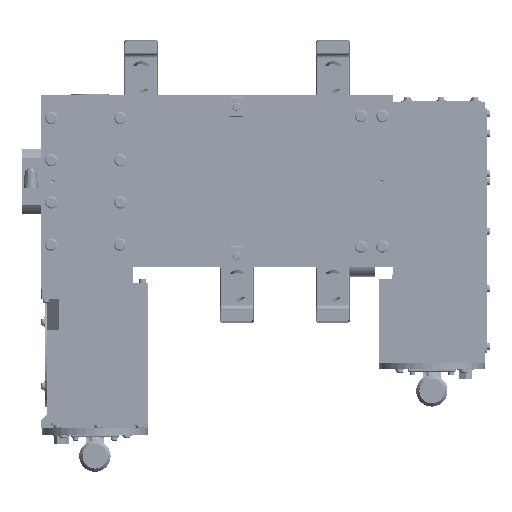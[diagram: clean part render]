
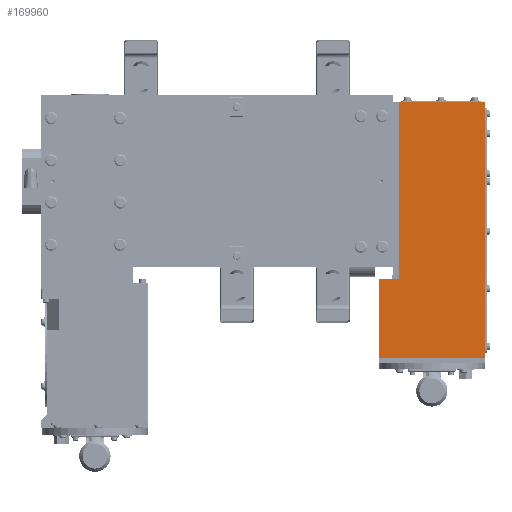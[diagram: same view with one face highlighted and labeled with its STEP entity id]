
A CAD part, front view. The second image highlights one B-rep face of the part: STEP entity #169960.
In plain terms, the highlighted planar face has unit normal (0, -1, 0).
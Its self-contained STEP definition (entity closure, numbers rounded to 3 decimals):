
#867 = CARTESIAN_POINT ( 'NONE',  ( -138., -197., -230. ) ) ;
#6870 = DIRECTION ( 'NONE',  ( -1., 0., 0. ) ) ;
#9101 = EDGE_CURVE ( 'NONE', #91188, #48433, #115496, .T. ) ;
#11586 = CARTESIAN_POINT ( 'NONE',  ( -121., -197., -127. ) ) ;
#23240 = DIRECTION ( 'NONE',  ( -1., 0., 0. ) ) ;
#23965 = LINE ( 'NONE', #58617, #148514 ) ;
#25224 = CARTESIAN_POINT ( 'NONE',  ( 0., -197., 103. ) ) ;
#28241 = EDGE_CURVE ( 'NONE', #41793, #71304, #137997, .T. ) ;
#33371 = EDGE_CURVE ( 'NONE', #83765, #71304, #166252, .T. ) ;
#33974 = EDGE_CURVE ( 'NONE', #44302, #41793, #156992, .T. ) ;
#34081 = DIRECTION ( 'NONE',  ( 0., 0., 1. ) ) ;
#35607 = CARTESIAN_POINT ( 'NONE',  ( 0., -197., -127. ) ) ;
#41793 = VERTEX_POINT ( 'NONE', #123306 ) ;
#44302 = VERTEX_POINT ( 'NONE', #47604 ) ;
#45513 = VECTOR ( 'NONE', #136202, 1000. ) ;
#46923 = DIRECTION ( 'NONE',  ( -1., 0., 0. ) ) ;
#47425 = FACE_OUTER_BOUND ( 'NONE', #55411, .T. ) ;
#47604 = CARTESIAN_POINT ( 'NONE',  ( 0., -197., -230. ) ) ;
#48433 = VERTEX_POINT ( 'NONE', #49277 ) ;
#49277 = CARTESIAN_POINT ( 'NONE',  ( -112., -197., 103. ) ) ;
#52975 = LINE ( 'NONE', #147802, #114072 ) ;
#54879 = VECTOR ( 'NONE', #6870, 1000. ) ;
#55411 = EDGE_LOOP ( 'NONE', ( #76901, #58107, #149606, #104354, #116095, #98676, #58189 ) ) ;
#58107 = ORIENTED_EDGE ( 'NONE', *, *, #9101, .T. ) ;
#58189 = ORIENTED_EDGE ( 'NONE', *, *, #33974, .F. ) ;
#58617 = CARTESIAN_POINT ( 'NONE',  ( -112., -197., 103. ) ) ;
#61703 = CARTESIAN_POINT ( 'NONE',  ( 0., -197., -230. ) ) ;
#65529 = CARTESIAN_POINT ( 'NONE',  ( -138., -197., -127. ) ) ;
#71304 = VERTEX_POINT ( 'NONE', #65529 ) ;
#74383 = CARTESIAN_POINT ( 'NONE',  ( 0., -197., 103. ) ) ;
#74880 = CARTESIAN_POINT ( 'NONE',  ( -112., -197., -127. ) ) ;
#76901 = ORIENTED_EDGE ( 'NONE', *, *, #137397, .T. ) ;
#78372 = VECTOR ( 'NONE', #46923, 1000. ) ;
#81597 = AXIS2_PLACEMENT_3D ( 'NONE', #61703, #117752, #34081 ) ;
#83765 = VERTEX_POINT ( 'NONE', #11586 ) ;
#84034 = DIRECTION ( 'NONE',  ( 0., 0., 1. ) ) ;
#91188 = VERTEX_POINT ( 'NONE', #25224 ) ;
#92356 = CARTESIAN_POINT ( 'NONE',  ( 0., -197., -230. ) ) ;
#98676 = ORIENTED_EDGE ( 'NONE', *, *, #28241, .F. ) ;
#104354 = ORIENTED_EDGE ( 'NONE', *, *, #107291, .T. ) ;
#107291 = EDGE_CURVE ( 'NONE', #160330, #83765, #52975, .T. ) ;
#114072 = VECTOR ( 'NONE', #23240, 1000. ) ;
#115496 = LINE ( 'NONE', #74383, #78372 ) ;
#116095 = ORIENTED_EDGE ( 'NONE', *, *, #33371, .T. ) ;
#117752 = DIRECTION ( 'NONE',  ( 0., 1., 0. ) ) ;
#122105 = CARTESIAN_POINT ( 'NONE',  ( 0., -197., -230. ) ) ;
#123306 = CARTESIAN_POINT ( 'NONE',  ( -138., -197., -230. ) ) ;
#133666 = VECTOR ( 'NONE', #84034, 1000. ) ;
#136202 = DIRECTION ( 'NONE',  ( -1., 0., 0. ) ) ;
#137397 = EDGE_CURVE ( 'NONE', #44302, #91188, #152903, .T. ) ;
#137997 = LINE ( 'NONE', #867, #133666 ) ;
#141389 = EDGE_CURVE ( 'NONE', #48433, #160330, #23965, .T. ) ;
#145260 = PLANE ( 'NONE',  #81597 ) ;
#147802 = CARTESIAN_POINT ( 'NONE',  ( 0., -197., -127. ) ) ;
#148514 = VECTOR ( 'NONE', #156277, 1000. ) ;
#148528 = VECTOR ( 'NONE', #161903, 1000. ) ;
#149606 = ORIENTED_EDGE ( 'NONE', *, *, #141389, .T. ) ;
#152903 = LINE ( 'NONE', #92356, #148528 ) ;
#156277 = DIRECTION ( 'NONE',  ( 0., 0., -1. ) ) ;
#156992 = LINE ( 'NONE', #122105, #45513 ) ;
#160330 = VERTEX_POINT ( 'NONE', #74880 ) ;
#161903 = DIRECTION ( 'NONE',  ( 0., 0., 1. ) ) ;
#166252 = LINE ( 'NONE', #35607, #54879 ) ;
#169960 = ADVANCED_FACE ( 'NONE', ( #47425 ), #145260, .F. ) ;
